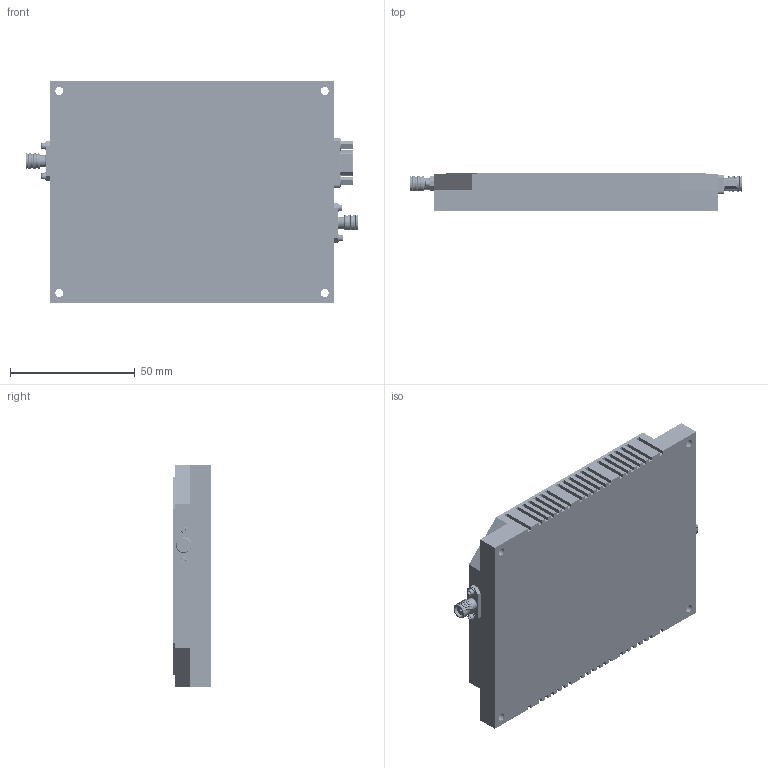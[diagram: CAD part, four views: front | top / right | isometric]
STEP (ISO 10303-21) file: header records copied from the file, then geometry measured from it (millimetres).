
FILE_DESCRIPTION (( 'STEP AP214' ), '1' );
FILE_NAME ('A6034-4000 -XXXXXXX.STEP', '2023-03-24T17:51:16', ( '' ), ( '' ), 'SwSTEP 2.0', 'SolidWorks 2021', '' );
FILE_SCHEMA (( 'AUTOMOTIVE_DESIGN' ));
Length unit declared in the file: inch
Products named in the file (11): two-hole flange sma_Standard; MDM-9P; Part1^A6034-1000 for boeing; MDM JACK POST LOCK_98449A500; 96640A021_96640A021; 5710-120-16_92141A001; MDM JACK POST_91075A512; 92196A054_92196A054; A6034-4000 -XXXXXXX; A6034-1200; A6034-1300
Assembly tree (35 placements, depth 2):
  Part1^A6034-1000 for boeing
  A6034-4000 -XXXXXXX
    A6034-1200
    two-hole flange sma_Standard  x2
    A6034-1300
    96640A021_96640A021  x18
    MDM JACK POST_91075A512  x2
    MDM-9P
    92196A054_92196A054  x4
    5710-120-16_92141A001  x4
    MDM JACK POST LOCK_98449A500  x2
Bounding box: 133.26 x 15.49 x 88.9 mm (x, y, z)
Volume: 82376.1 mm3; surface area: 57733 mm2
Topology: 41 solids, 41 shells, 3962 faces, 10578 edges, 6865 vertices
Faces by surface type: plane 1785, cylinder 1067, bspline 515, cone 488, torus 107
Entity records: 125217 total; most frequent: CARTESIAN_POINT 45560, ORIENTED_EDGE 13394, DIRECTION 10889, EDGE_CURVE 6697, LINE 4533, VECTOR 4533, VERTEX_POINT 4407, AXIS2_PLACEMENT_3D 3178
